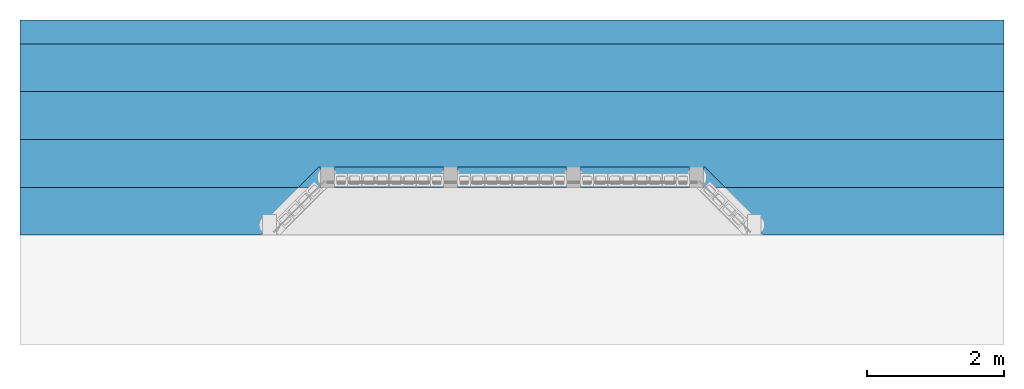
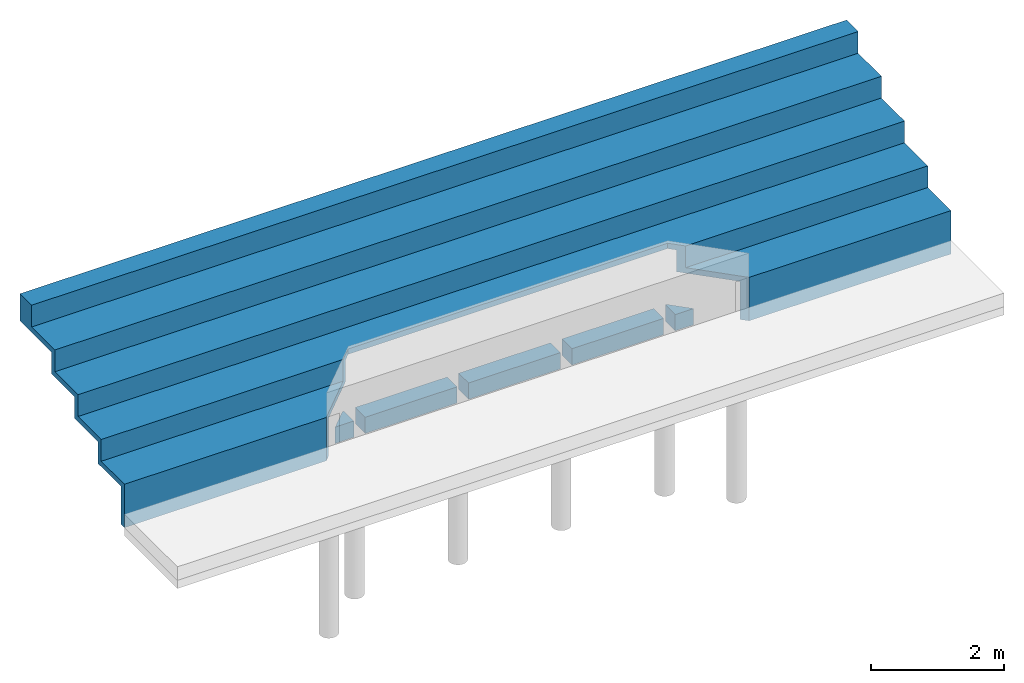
# One storey, part 2 of 4: 1 beam, 1 stair.
"""IFC4 building model written with IfcOpenShell, lengths in centimetres."""

from ifc_helpers import new_model, entity, si_unit, converted_unit, derived_unit, direction, frame, origin, place, context, subcontext, project, spatial, polygons, source, transform, mapped, material, type_object, type_shapes, element, save


model = new_model("IFC4")

# Units and contexts
model_context = context("Model", 3, precision=0.001, world=origin(), true_north=direction((6.123233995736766e-17, 1.0)))
body_context = subcontext(model_context, "Body", "Model", "MODEL_VIEW")
ifc_project = project(units=[si_unit("LENGTHUNIT", "METRE", prefix="CENTI"), si_unit("AREAUNIT", "SQUARE_METRE"), converted_unit("PLANEANGLEUNIT", "DEGREE", entity("IfcPlaneAngleMeasure", 0.017453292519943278), si_unit("PLANEANGLEUNIT", "RADIAN"), dimensions=[0, 0, 0, 0, 0, 0, 0]), si_unit("VOLUMEUNIT", "CUBIC_METRE"), derived_unit("THERMALTRANSMITTANCEUNIT", [(si_unit("MASSUNIT", "GRAM", prefix="KILO"), 1), (si_unit("THERMODYNAMICTEMPERATUREUNIT", "KELVIN"), -1), (si_unit("TIMEUNIT", "SECOND"), -3)])], contexts=[model_context])

# Site, building, storey
site_placement = place(None, origin())
site = spatial("IfcSite", under=ifc_project, at=site_placement, Name="Default", CompositionType="ELEMENT")
building_placement = place(site_placement, origin())
building = spatial("IfcBuilding", under=site, at=building_placement, Name="CONTENÇÃO DE ARQUIBANCADA - GINÁSIO PADRÃO", CompositionType="ELEMENT")
storey_placement = place(building_placement, origin())
storey = spatial("IfcBuildingStorey", under=building, at=storey_placement, Name="Nível 1", CompositionType="ELEMENT", Elevation=0.0)

# Beam
ifc_material_1 = material(Name="Concreto C-30", Category="Concreto")
beam_type = type_object("IfcBeamType", Name="Concreto-Viga Retangular1:30x30", PredefinedType="BEAM", material=ifc_material_1)
shared_shape = source(origin(), body_context, "Body", "Tessellation", [
    polygons([(624.6439982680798, 2.842170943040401e-14, 29.999999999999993), (594.6439982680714, 30.00000000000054, 29.999999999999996), (592.4706123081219, 30.000000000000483, 29.999999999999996), (592.4706123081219, 1.4210854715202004e-13, 29.999999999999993), (624.6439982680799, 2.842170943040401e-14, 0.0), (592.4706123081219, 1.4210854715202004e-13, 0.0), (594.6439982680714, 30.00000000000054, 0.0), (592.4706123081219, 30.000000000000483, 0.0)], [[[1, 2, 3, 4]], [[5, 1, 4, 6]], [[7, 5, 6, 8]], [[2, 7, 8, 3]], [[2, 1, 5, 7]], [[4, 3, 8, 6]]], closed=True),
    polygons([(0.0, 2.0747847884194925e-12, 29.999999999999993), (29.97281984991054, 30.000000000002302, 29.999999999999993), (29.97281984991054, 30.000000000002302, 0.0), (0.0, 2.0747847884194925e-12, 3.552713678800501e-15), (32.47061230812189, 30.000000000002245, 29.999999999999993), (32.47061230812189, 1.9326762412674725e-12, 29.999999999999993), (32.47061230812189, 1.9326762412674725e-12, 3.552713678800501e-15), (32.47061230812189, 30.000000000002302, 0.0)], [[[1, 2, 3, 4]], [[5, 6, 7, 8]], [[2, 1, 6, 5]], [[1, 4, 7, 6]], [[3, 2, 5, 8]], [[4, 3, 8, 7]]], closed=True),
    polygons([(52.4706123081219, 1.8758328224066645e-12, 29.999999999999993), (52.4706123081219, 30.00000000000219, 29.999999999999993), (52.4706123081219, 30.000000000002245, 0.0), (52.4706123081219, 1.8758328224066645e-12, 3.552713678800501e-15), (212.4706123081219, 30.000000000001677, 29.999999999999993), (212.4706123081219, 1.3926637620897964e-12, 29.999999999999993), (212.4706123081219, 1.3926637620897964e-12, 3.552713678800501e-15), (212.4706123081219, 30.000000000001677, 0.0)], [[[1, 2, 3, 4]], [[5, 6, 7, 8]], [[2, 1, 6, 5]], [[1, 4, 7, 6]], [[4, 3, 8, 7]], [[3, 2, 5, 8]]], closed=True),
    polygons([(572.4706123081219, 30.00000000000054, 29.999999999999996), (572.4706123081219, 2.2737367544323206e-13, 29.999999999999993), (572.4706123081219, 2.2737367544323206e-13, 0.0), (572.4706123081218, 30.00000000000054, 0.0), (412.470612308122, 30.00000000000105, 29.999999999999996), (412.470612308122, 7.389644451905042e-13, 29.999999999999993), (412.470612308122, 7.389644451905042e-13, 0.0), (412.470612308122, 30.00000000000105, 0.0)], [[[1, 2, 3, 4]], [[2, 1, 5, 6]], [[3, 2, 6, 7]], [[4, 3, 7, 8]], [[1, 4, 8, 5]], [[6, 5, 8, 7]]], closed=True),
    polygons([(392.4706123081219, 30.000000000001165, 29.999999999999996), (392.4706123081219, 7.958078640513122e-13, 29.999999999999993), (392.4706123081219, 7.958078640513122e-13, 0.0), (392.4706123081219, 30.000000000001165, 0.0), (232.4706123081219, 30.00000000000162, 29.999999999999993), (232.4706123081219, 1.3073986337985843e-12, 29.999999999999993), (232.4706123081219, 1.3073986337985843e-12, 0.0), (232.4706123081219, 30.00000000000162, 0.0)], [[[1, 2, 3, 4]], [[2, 1, 5, 6]], [[3, 2, 6, 7]], [[4, 3, 7, 8]], [[1, 4, 8, 5]], [[6, 5, 8, 7]]], closed=True),
])
type_shapes(beam_type, [shared_shape])
beam_placement = place(storey_placement, frame((-28.015296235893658, 234.074175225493, -30.0)))
element("IfcBeam", 1, at=beam_placement, inside=storey, type_object=beam_type, material=ifc_material_1, Name="Concreto-Viga Retangular1:30x30", ObjectType="Concreto-Viga Retangular1:30x30", PredefinedType="BEAM", context=body_context, shape_type="MappedRepresentation", body=[
    mapped(shared_shape, transform((0.0, 0.0, 0.0), scale=1.0)),
])

# Stair
ifc_material_2 = material(Name="<Unnamed>")
stair_type = type_object("IfcStairType", Name="Escadas 1:Escadas 1", PredefinedType="NOTDEFINED")
stair_placement = place(storey_placement, origin())
element("IfcStair", 2, at=stair_placement, inside=storey, type_object=stair_type, material=ifc_material_2, Name="Escadas 1:Escadas 1", ObjectType="Escadas 1:Escadas 1", PredefinedType="NOTDEFINED", context=body_context, shape_type="Tessellation", body=[
    polygons([(-435.5446839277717, 374.07417522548, 199.99999999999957), (-435.5446839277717, 444.0741752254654, 199.99999999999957), (-435.5446839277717, 444.0741752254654, 239.99999999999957), (-435.5446839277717, 479.07417522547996, 239.99999999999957), (-435.5446839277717, 479.07417522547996, 189.9999999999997), (-435.5446839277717, 384.0741752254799, 189.9999999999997), (-435.5446839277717, 384.0741752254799, 149.9999999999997), (-435.5446839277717, 314.0741752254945, 149.9999999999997), (-435.5446839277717, 314.0741752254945, 109.99999999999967), (-435.5446839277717, 244.0741752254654, 109.99999999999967), (-435.5446839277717, 244.0741752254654, 69.99999999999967), (-435.5446839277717, 174.07417522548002, 69.99999999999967), (-435.5446839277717, 174.07417522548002, -1.4077272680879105e-12), (-435.5446839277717, 164.07417522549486, -1.4077272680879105e-12), (-435.5446839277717, 164.07417522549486, 79.99999999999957), (-435.5446839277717, 234.07417522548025, 79.99999999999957), (-435.5446839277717, 234.07417522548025, 119.99999999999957), (-435.5446839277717, 304.0741752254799, 119.99999999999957), (-435.5446839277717, 304.0741752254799, 159.99999999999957), (-435.5446839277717, 374.07417522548, 159.99999999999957), (1004.4553160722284, 374.07417522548, 199.99999999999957), (1004.4553160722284, 374.07417522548, 159.99999999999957), (1004.4553160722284, 304.0741752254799, 159.99999999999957), (1004.4553160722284, 304.0741752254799, 119.99999999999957), (1004.4553160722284, 234.07417522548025, 119.99999999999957), (1004.4553160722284, 234.07417522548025, 79.99999999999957), (1004.4553160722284, 164.07417522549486, 79.99999999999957), (1004.4553160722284, 164.07417522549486, -1.4077272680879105e-12), (1004.4553160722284, 174.07417522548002, -1.4077272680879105e-12), (1004.4553160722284, 174.07417522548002, 69.99999999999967), (1004.4553160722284, 244.0741752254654, 69.99999999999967), (1004.4553160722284, 244.0741752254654, 109.99999999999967), (1004.4553160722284, 314.0741752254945, 109.99999999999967), (1004.4553160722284, 314.0741752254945, 149.9999999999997), (1004.4553160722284, 384.0741752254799, 149.9999999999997), (1004.4553160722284, 384.0741752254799, 189.9999999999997), (1004.4553160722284, 479.07417522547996, 189.9999999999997), (1004.4553160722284, 479.07417522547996, 239.99999999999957), (1004.4553160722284, 444.0741752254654, 239.99999999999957), (1004.4553160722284, 444.0741752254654, 199.99999999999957), (572.7281622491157, 244.07417522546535, 109.99999999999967), (562.7281622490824, 254.074175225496, 109.99999999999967), (6.113845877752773, 254.074175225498, 109.99999999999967), (-3.8770940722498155, 244.07417522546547, 109.99999999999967), (-3.8770940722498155, 244.07417522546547, 69.99999999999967), (-73.81367372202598, 174.07417522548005, 69.99999999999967), (-73.81367372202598, 174.07417522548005, -1.4077272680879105e-12), (-83.80461367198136, 164.07417522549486, -1.405471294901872e-12), (-83.80461367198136, 164.07417522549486, 79.99999999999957), (-13.868034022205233, 234.07417522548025, 79.99999999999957), (-13.868034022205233, 234.07417522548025, 119.99999999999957), (6.113845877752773, 254.074175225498, 119.99999999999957), (562.7281622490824, 254.074175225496, 119.99999999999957), (582.7281622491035, 234.07417522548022, 119.99999999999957), (572.7281622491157, 244.07417522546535, 69.99999999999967), (642.72816224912, 174.07417522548, 69.99999999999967), (642.72816224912, 174.07417522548, -1.4077272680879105e-12), (652.728162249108, 164.07417522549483, -1.405471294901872e-12), (652.728162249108, 164.07417522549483, 79.99999999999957), (582.7281622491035, 234.07417522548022, 79.99999999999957)], [[[1, 2, 3, 4, 5, 6, 7, 8, 9, 10, 11, 12, 13, 14, 15, 16, 17, 18, 19, 20]], [[21, 22, 23, 24, 25, 26, 27, 28, 29, 30, 31, 32, 33, 34, 35, 36, 37, 38, 39, 40]], [[2, 1, 21, 40]], [[3, 2, 40, 39]], [[4, 3, 39, 38]], [[5, 4, 38, 37]], [[6, 5, 37, 36]], [[7, 6, 36, 35]], [[8, 7, 35, 34]], [[9, 8, 34, 33]], [[10, 9, 33, 32, 41, 42, 43, 44]], [[11, 10, 44, 45]], [[12, 11, 45, 46]], [[13, 12, 46, 47]], [[14, 13, 47, 48]], [[15, 14, 48, 49]], [[16, 15, 49, 50]], [[17, 16, 50, 51]], [[18, 17, 51, 52, 53, 54, 25, 24]], [[19, 18, 24, 23]], [[20, 19, 23, 22]], [[1, 20, 22, 21]], [[42, 53, 52, 43]], [[43, 52, 51, 50, 49, 48, 47, 46, 45, 44]], [[53, 42, 41, 55, 56, 57, 58, 59, 60, 54]], [[30, 29, 57, 56]], [[29, 28, 58, 57]], [[28, 27, 59, 58]], [[27, 26, 60, 59]], [[32, 31, 55, 41]], [[31, 30, 56, 55]], [[26, 25, 54, 60]]], closed=True),
])

save(model, "model.ifc")
